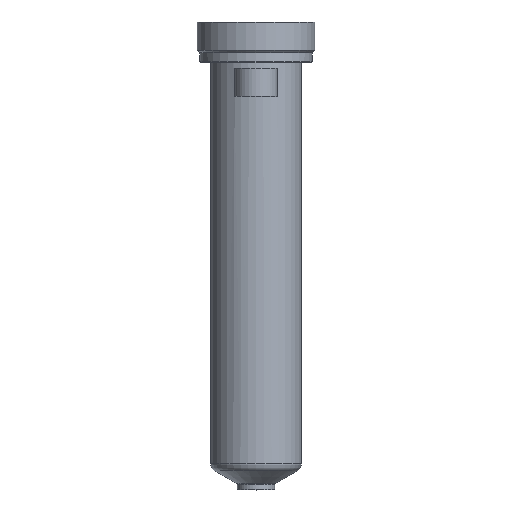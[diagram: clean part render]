
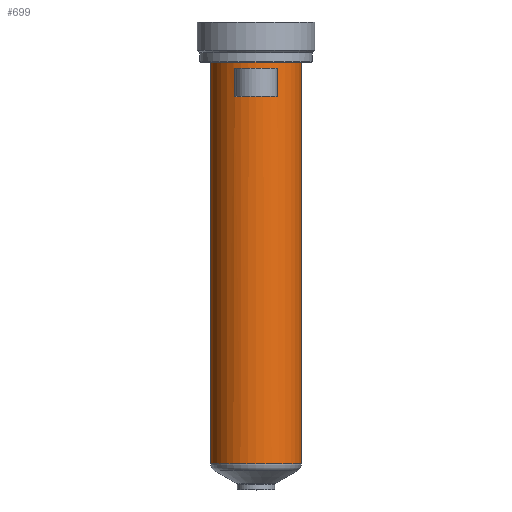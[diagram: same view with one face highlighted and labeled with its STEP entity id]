
A CAD part, top view. The second image highlights one B-rep face of the part: STEP entity #699.
In plain terms, the highlighted cylindrical face has radius 17 mm (diameter 34 mm), a partial arc.
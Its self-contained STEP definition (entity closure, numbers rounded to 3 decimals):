
#191=DIRECTION('',(0.,-1.,0.));
#192=VECTOR('',#191,150.206);
#193=CARTESIAN_POINT('',(17.,0.,0.));
#194=LINE('',#193,#192);
#195=CARTESIAN_POINT('',(0.,-150.206,0.));
#196=DIRECTION('',(0.,1.,0.));
#197=DIRECTION('',(-1.,0.,0.));
#198=AXIS2_PLACEMENT_3D('',#195,#196,#197);
#200=DIRECTION('',(0.,1.,0.));
#201=VECTOR('',#200,150.206);
#202=CARTESIAN_POINT('',(-17.,-150.206,0.));
#203=LINE('',#202,#201);
#204=CARTESIAN_POINT('',(0.,0.,0.));
#205=DIRECTION('',(0.,1.,0.));
#206=DIRECTION('',(-1.,0.,0.));
#207=AXIS2_PLACEMENT_3D('',#204,#205,#206);
#285=DIRECTION('',(0.,1.,0.));
#286=VECTOR('',#285,10.5);
#287=CARTESIAN_POINT('',(-8.,-13.,15.));
#288=LINE('',#287,#286);
#289=CARTESIAN_POINT('',(0.,-13.,0.));
#290=DIRECTION('',(0.,1.,0.));
#291=DIRECTION('',(-0.471,0.,0.882));
#292=AXIS2_PLACEMENT_3D('',#289,#290,#291);
#315=CARTESIAN_POINT('',(0.,-2.5,0.));
#316=DIRECTION('',(0.,-1.,0.));
#317=DIRECTION('',(0.471,0.,0.882));
#318=AXIS2_PLACEMENT_3D('',#315,#316,#317);
#333=DIRECTION('',(0.,1.,0.));
#334=VECTOR('',#333,10.5);
#335=CARTESIAN_POINT('',(8.,-13.,15.));
#336=LINE('',#335,#334);
#394=CARTESIAN_POINT('',(-17.,0.,0.));
#395=CARTESIAN_POINT('',(17.,0.,0.));
#396=VERTEX_POINT('',#394);
#397=VERTEX_POINT('',#395);
#406=CARTESIAN_POINT('',(-8.,-2.5,15.));
#407=VERTEX_POINT('',#406);
#408=CARTESIAN_POINT('',(8.,-2.5,15.));
#409=VERTEX_POINT('',#408);
#446=CARTESIAN_POINT('',(17.,-150.206,0.));
#447=VERTEX_POINT('',#446);
#456=CARTESIAN_POINT('',(-17.,-150.206,0.));
#457=VERTEX_POINT('',#456);
#458=CARTESIAN_POINT('',(-8.,-13.,15.));
#459=CARTESIAN_POINT('',(8.,-13.,15.));
#460=VERTEX_POINT('',#458);
#461=VERTEX_POINT('',#459);
#677=CARTESIAN_POINT('',(0.,16.4,0.));
#678=DIRECTION('',(0.,-1.,0.));
#679=DIRECTION('',(-1.,0.,0.));
#680=AXIS2_PLACEMENT_3D('',#677,#678,#679);
#681=CYLINDRICAL_SURFACE('',#680,17.);
#682=ORIENTED_EDGE('',*,*,#671,.T.);
#684=ORIENTED_EDGE('',*,*,#683,.F.);
#685=ORIENTED_EDGE('',*,*,#667,.T.);
#686=ORIENTED_EDGE('',*,*,#657,.T.);
#687=EDGE_LOOP('',(#682,#684,#685,#686));
#688=FACE_OUTER_BOUND('',#687,.F.);
#690=ORIENTED_EDGE('',*,*,#689,.F.);
#692=ORIENTED_EDGE('',*,*,#691,.T.);
#694=ORIENTED_EDGE('',*,*,#693,.T.);
#696=ORIENTED_EDGE('',*,*,#695,.T.);
#697=EDGE_LOOP('',(#690,#692,#694,#696));
#698=FACE_BOUND('',#697,.F.);
#699=ADVANCED_FACE('',(#688,#698),#681,.T.);
#199=CIRCLE('',#198,17.);
#208=CIRCLE('',#207,17.);
#293=CIRCLE('',#292,17.);
#319=CIRCLE('',#318,17.);
#657=EDGE_CURVE('',#396,#397,#208,.T.);
#667=EDGE_CURVE('',#457,#396,#203,.T.);
#671=EDGE_CURVE('',#397,#447,#194,.T.);
#683=EDGE_CURVE('',#457,#447,#199,.T.);
#689=EDGE_CURVE('',#460,#407,#288,.T.);
#691=EDGE_CURVE('',#460,#461,#293,.T.);
#693=EDGE_CURVE('',#461,#409,#336,.T.);
#695=EDGE_CURVE('',#409,#407,#319,.T.);
